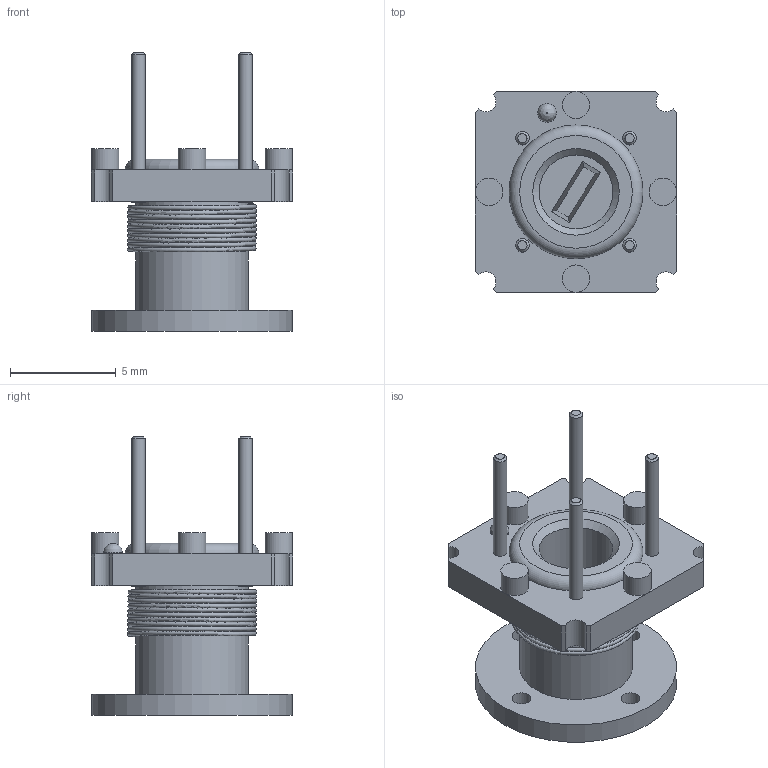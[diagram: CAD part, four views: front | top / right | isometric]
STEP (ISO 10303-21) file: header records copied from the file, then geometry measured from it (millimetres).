
FILE_DESCRIPTION(/* description */ (''),/* implementation_level */ '2;1');
FILE_NAME(/* name */ '\\Snap1\dwgs\Customer 3D Models\556\556-7105.stp',/* time_stamp */ '2016-12-22T17:33:09+00:00',/* author */ ('paulk'),/* organization */ (''),/* preprocessor_version */ 'ST-DEVELOPER v15.2',/* originating_system */ 'Autodesk Inventor 2014',/* authorisation */ '');
FILE_SCHEMA (('CONFIG_CONTROL_DESIGN'));
Length unit declared in the file: millimetre
Products named in the file (1): 556-7105
Bounding box: 9.53 x 9.53 x 13.21 mm (x, y, z)
Volume: 310.7 mm3; surface area: 682.5 mm2
Topology: 2 solids, 2 shells, 75 faces, 158 edges, 102 vertices
Faces by surface type: plane 43, cylinder 24, cone 5, bspline 2, torus 1
Full cylindrical faces by diameter (mm): 0.64 x8, 0.889 x1, 0.9 x4, 1.3 x4, 3.5 x1, 5.34 x1, 9.525 x1
Entity records: 3507 total; most frequent: CARTESIAN_POINT 1876, DIRECTION 332, ORIENTED_EDGE 256, AXIS2_PLACEMENT_3D 132, EDGE_CURVE 128, EDGE_LOOP 124, VERTEX_POINT 98, ADVANCED_FACE 75
